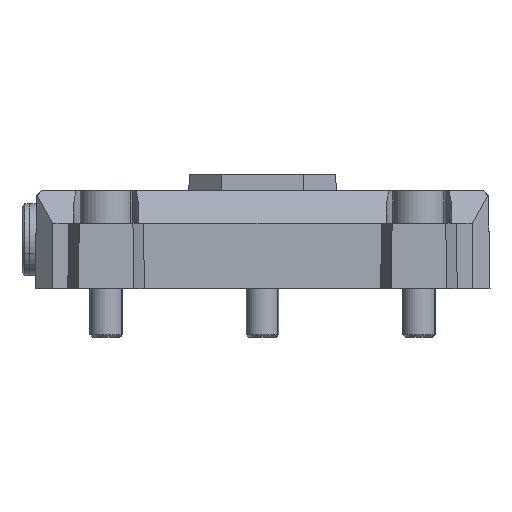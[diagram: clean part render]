
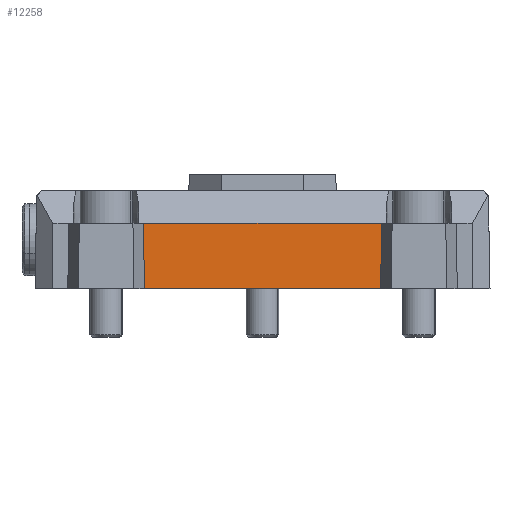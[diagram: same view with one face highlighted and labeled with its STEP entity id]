
A CAD part, front view. The second image highlights one B-rep face of the part: STEP entity #12258.
In plain terms, the highlighted planar face has unit normal (0, -1, 0.018).
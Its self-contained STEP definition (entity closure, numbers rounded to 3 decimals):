
#819 = CARTESIAN_POINT ( 'NONE',  ( -36.492, 8.349, 20. ) ) ;
#2120 = EDGE_CURVE ( 'NONE', #29823, #29039, #4727, .T. ) ;
#4727 = LINE ( 'NONE', #5175, #32839 ) ;
#4774 = DIRECTION ( 'NONE',  ( 0., -0.017, -1. ) ) ;
#4904 = ORIENTED_EDGE ( 'NONE', *, *, #29857, .F. ) ;
#5000 = VERTEX_POINT ( 'NONE', #31401 ) ;
#5175 = CARTESIAN_POINT ( 'NONE',  ( -36.27, 8., 0. ) ) ;
#7045 = LINE ( 'NONE', #27641, #9645 ) ;
#7247 = CARTESIAN_POINT ( 'NONE',  ( 36.27, 8., 0. ) ) ;
#7866 = PLANE ( 'NONE',  #18441 ) ;
#8456 = LINE ( 'NONE', #7247, #17417 ) ;
#9645 = VECTOR ( 'NONE', #14190, 1000. ) ;
#12258 = ADVANCED_FACE ( 'NONE', ( #14510 ), #7866, .T. ) ;
#13118 = DIRECTION ( 'NONE',  ( 0., -1., 0.017 ) ) ;
#13423 = ORIENTED_EDGE ( 'NONE', *, *, #14423, .T. ) ;
#14190 = DIRECTION ( 'NONE',  ( 1., 0., 0. ) ) ;
#14423 = EDGE_CURVE ( 'NONE', #29039, #27827, #8456, .T. ) ;
#14510 = FACE_OUTER_BOUND ( 'NONE', #16761, .T. ) ;
#14659 = LINE ( 'NONE', #19420, #30845 ) ;
#15698 = ORIENTED_EDGE ( 'NONE', *, *, #2120, .T. ) ;
#16761 = EDGE_LOOP ( 'NONE', ( #15698, #13423, #4904, #32654 ) ) ;
#17417 = VECTOR ( 'NONE', #18076, 1000. ) ;
#18076 = DIRECTION ( 'NONE',  ( 1., 0., 0. ) ) ;
#18441 = AXIS2_PLACEMENT_3D ( 'NONE', #23812, #13118, #4774 ) ;
#18505 = DIRECTION ( 'NONE',  ( 0.011, -0.017, -1. ) ) ;
#19420 = CARTESIAN_POINT ( 'NONE',  ( 36.27, 8., 0. ) ) ;
#23812 = CARTESIAN_POINT ( 'NONE',  ( 36.27, 8., 0. ) ) ;
#23943 = CARTESIAN_POINT ( 'NONE',  ( 36.27, 8., 0. ) ) ;
#27118 = EDGE_CURVE ( 'NONE', #29823, #5000, #7045, .T. ) ;
#27641 = CARTESIAN_POINT ( 'NONE',  ( -69.826, 8.349, 20. ) ) ;
#27827 = VERTEX_POINT ( 'NONE', #23943 ) ;
#28179 = CARTESIAN_POINT ( 'NONE',  ( -36.27, 8., 0. ) ) ;
#29039 = VERTEX_POINT ( 'NONE', #28179 ) ;
#29823 = VERTEX_POINT ( 'NONE', #819 ) ;
#29857 = EDGE_CURVE ( 'NONE', #5000, #27827, #14659, .T. ) ;
#30845 = VECTOR ( 'NONE', #33317, 1000. ) ;
#31401 = CARTESIAN_POINT ( 'NONE',  ( 36.492, 8.349, 20. ) ) ;
#32654 = ORIENTED_EDGE ( 'NONE', *, *, #27118, .F. ) ;
#32839 = VECTOR ( 'NONE', #18505, 1000. ) ;
#33317 = DIRECTION ( 'NONE',  ( -0.011, -0.017, -1. ) ) ;
